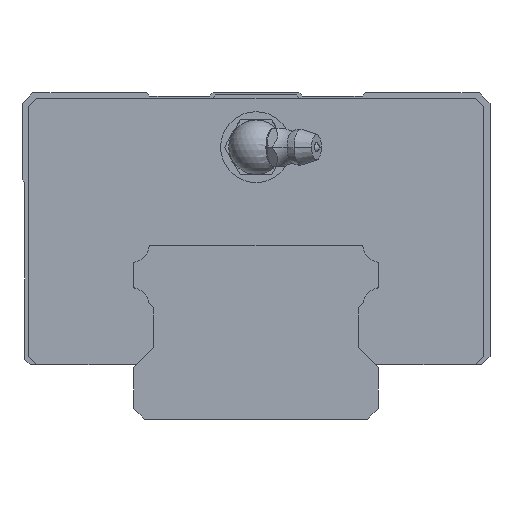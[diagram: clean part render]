
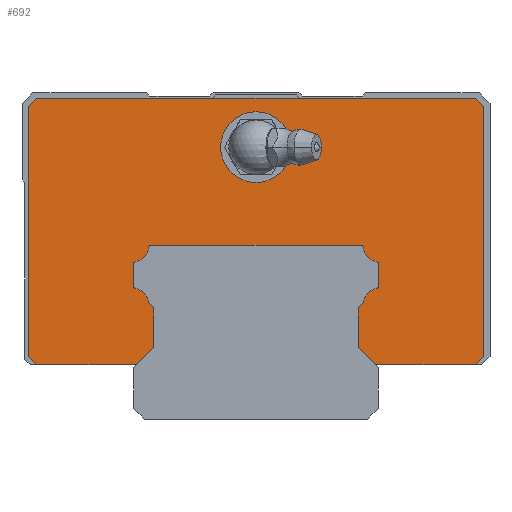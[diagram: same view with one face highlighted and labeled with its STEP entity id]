
A CAD part, front view. The second image highlights one B-rep face of the part: STEP entity #692.
In plain terms, the highlighted planar face has unit normal (0, -1, 0).
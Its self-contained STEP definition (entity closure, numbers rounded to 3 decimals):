
#432=FACE_BOUND('',#1112,.T.);
#433=FACE_BOUND('',#1113,.T.);
#562=CIRCLE('',#3401,6.5);
#563=CIRCLE('',#3402,3.2);
#564=CIRCLE('',#3403,0.5);
#565=CIRCLE('',#3404,0.5);
#566=CIRCLE('',#3405,3.2);
#567=CIRCLE('',#3406,0.5);
#568=CIRCLE('',#3407,0.5);
#569=CIRCLE('',#3408,3.2);
#570=CIRCLE('',#3409,0.5);
#571=CIRCLE('',#3410,0.5);
#572=CIRCLE('',#3411,3.2);
#692=ADVANCED_FACE('',(#432,#433),#878,.T.);
#878=PLANE('',#3412);
#1112=EDGE_LOOP('',(#1365));
#1113=EDGE_LOOP('',(#1366,#1367,#1368,#1369,#1370,#1371,#1372,#1373,#1374,
#1375,#1376,#1377,#1378,#1379,#1380,#1381,#1382,#1383,#1384,#1385,#1386,
#1387,#1388,#1389,#1390,#1391,#1392,#1393));
#1365=ORIENTED_EDGE('',*,*,#2480,.F.);
#1366=ORIENTED_EDGE('',*,*,#2481,.T.);
#1367=ORIENTED_EDGE('',*,*,#2482,.T.);
#1368=ORIENTED_EDGE('',*,*,#2483,.T.);
#1369=ORIENTED_EDGE('',*,*,#2484,.T.);
#1370=ORIENTED_EDGE('',*,*,#2485,.T.);
#1371=ORIENTED_EDGE('',*,*,#2486,.T.);
#1372=ORIENTED_EDGE('',*,*,#2487,.T.);
#1373=ORIENTED_EDGE('',*,*,#2488,.T.);
#1374=ORIENTED_EDGE('',*,*,#2489,.T.);
#1375=ORIENTED_EDGE('',*,*,#2490,.T.);
#1376=ORIENTED_EDGE('',*,*,#2491,.T.);
#1377=ORIENTED_EDGE('',*,*,#2492,.T.);
#1378=ORIENTED_EDGE('',*,*,#2493,.T.);
#1379=ORIENTED_EDGE('',*,*,#2494,.T.);
#1380=ORIENTED_EDGE('',*,*,#2495,.T.);
#1381=ORIENTED_EDGE('',*,*,#2496,.T.);
#1382=ORIENTED_EDGE('',*,*,#2497,.T.);
#1383=ORIENTED_EDGE('',*,*,#2498,.T.);
#1384=ORIENTED_EDGE('',*,*,#2499,.T.);
#1385=ORIENTED_EDGE('',*,*,#2500,.T.);
#1386=ORIENTED_EDGE('',*,*,#2501,.T.);
#1387=ORIENTED_EDGE('',*,*,#2502,.T.);
#1388=ORIENTED_EDGE('',*,*,#2503,.T.);
#1389=ORIENTED_EDGE('',*,*,#2504,.T.);
#1390=ORIENTED_EDGE('',*,*,#2505,.T.);
#1391=ORIENTED_EDGE('',*,*,#2506,.T.);
#1392=ORIENTED_EDGE('',*,*,#2507,.T.);
#1393=ORIENTED_EDGE('',*,*,#2508,.T.);
#2187=VERTEX_POINT('',#4614);
#2188=VERTEX_POINT('',#4616);
#2189=VERTEX_POINT('',#4617);
#2190=VERTEX_POINT('',#4619);
#2191=VERTEX_POINT('',#4621);
#2192=VERTEX_POINT('',#4623);
#2193=VERTEX_POINT('',#4625);
#2194=VERTEX_POINT('',#4627);
#2195=VERTEX_POINT('',#4629);
#2196=VERTEX_POINT('',#4631);
#2197=VERTEX_POINT('',#4633);
#2198=VERTEX_POINT('',#4635);
#2199=VERTEX_POINT('',#4637);
#2200=VERTEX_POINT('',#4639);
#2201=VERTEX_POINT('',#4641);
#2202=VERTEX_POINT('',#4643);
#2203=VERTEX_POINT('',#4645);
#2204=VERTEX_POINT('',#4647);
#2205=VERTEX_POINT('',#4649);
#2206=VERTEX_POINT('',#4651);
#2207=VERTEX_POINT('',#4653);
#2208=VERTEX_POINT('',#4655);
#2209=VERTEX_POINT('',#4657);
#2210=VERTEX_POINT('',#4659);
#2211=VERTEX_POINT('',#4661);
#2212=VERTEX_POINT('',#4663);
#2213=VERTEX_POINT('',#4665);
#2214=VERTEX_POINT('',#4667);
#2215=VERTEX_POINT('',#4669);
#2480=EDGE_CURVE('',#2187,#2187,#562,.T.);
#2481=EDGE_CURVE('',#2188,#2189,#2891,.T.);
#2482=EDGE_CURVE('',#2189,#2190,#2892,.T.);
#2483=EDGE_CURVE('',#2190,#2191,#2893,.T.);
#2484=EDGE_CURVE('',#2191,#2192,#2894,.T.);
#2485=EDGE_CURVE('',#2192,#2193,#2895,.T.);
#2486=EDGE_CURVE('',#2193,#2194,#2896,.T.);
#2487=EDGE_CURVE('',#2194,#2195,#2897,.T.);
#2488=EDGE_CURVE('',#2195,#2196,#2898,.T.);
#2489=EDGE_CURVE('',#2196,#2197,#2899,.T.);
#2490=EDGE_CURVE('',#2197,#2198,#2900,.T.);
#2491=EDGE_CURVE('',#2198,#2199,#2901,.T.);
#2492=EDGE_CURVE('',#2199,#2200,#2902,.T.);
#2493=EDGE_CURVE('',#2200,#2201,#2903,.T.);
#2494=EDGE_CURVE('',#2201,#2202,#2904,.T.);
#2495=EDGE_CURVE('',#2202,#2203,#563,.T.);
#2496=EDGE_CURVE('',#2203,#2204,#564,.T.);
#2497=EDGE_CURVE('',#2204,#2205,#2905,.T.);
#2498=EDGE_CURVE('',#2205,#2206,#565,.T.);
#2499=EDGE_CURVE('',#2206,#2207,#566,.T.);
#2500=EDGE_CURVE('',#2207,#2208,#567,.T.);
#2501=EDGE_CURVE('',#2208,#2209,#2906,.T.);
#2502=EDGE_CURVE('',#2209,#2210,#568,.T.);
#2503=EDGE_CURVE('',#2210,#2211,#569,.T.);
#2504=EDGE_CURVE('',#2211,#2212,#570,.T.);
#2505=EDGE_CURVE('',#2212,#2213,#2907,.T.);
#2506=EDGE_CURVE('',#2213,#2214,#571,.T.);
#2507=EDGE_CURVE('',#2214,#2215,#572,.T.);
#2508=EDGE_CURVE('',#2215,#2188,#2908,.T.);
#2891=LINE('',#4615,#3147);
#2892=LINE('',#4618,#3148);
#2893=LINE('',#4620,#3149);
#2894=LINE('',#4622,#3150);
#2895=LINE('',#4624,#3151);
#2896=LINE('',#4626,#3152);
#2897=LINE('',#4628,#3153);
#2898=LINE('',#4630,#3154);
#2899=LINE('',#4632,#3155);
#2900=LINE('',#4634,#3156);
#2901=LINE('',#4636,#3157);
#2902=LINE('',#4638,#3158);
#2903=LINE('',#4640,#3159);
#2904=LINE('',#4642,#3160);
#2905=LINE('',#4648,#3161);
#2906=LINE('',#4656,#3162);
#2907=LINE('',#4664,#3163);
#2908=LINE('',#4670,#3164);
#3147=VECTOR('',#3725,1.);
#3148=VECTOR('',#3726,1.);
#3149=VECTOR('',#3727,1.);
#3150=VECTOR('',#3728,1.);
#3151=VECTOR('',#3729,1.);
#3152=VECTOR('',#3730,1.);
#3153=VECTOR('',#3731,1.);
#3154=VECTOR('',#3732,1.);
#3155=VECTOR('',#3733,1.);
#3156=VECTOR('',#3734,1.);
#3157=VECTOR('',#3735,1.);
#3158=VECTOR('',#3736,1.);
#3159=VECTOR('',#3737,1.);
#3160=VECTOR('',#3738,1.);
#3161=VECTOR('',#3743,1.);
#3162=VECTOR('',#3750,1.);
#3163=VECTOR('',#3757,1.);
#3164=VECTOR('',#3762,1.);
#3401=AXIS2_PLACEMENT_3D('',#4613,#3723,#3724);
#3402=AXIS2_PLACEMENT_3D('',#4644,#3739,#3740);
#3403=AXIS2_PLACEMENT_3D('',#4646,#3741,#3742);
#3404=AXIS2_PLACEMENT_3D('',#4650,#3744,#3745);
#3405=AXIS2_PLACEMENT_3D('',#4652,#3746,#3747);
#3406=AXIS2_PLACEMENT_3D('',#4654,#3748,#3749);
#3407=AXIS2_PLACEMENT_3D('',#4658,#3751,#3752);
#3408=AXIS2_PLACEMENT_3D('',#4660,#3753,#3754);
#3409=AXIS2_PLACEMENT_3D('',#4662,#3755,#3756);
#3410=AXIS2_PLACEMENT_3D('',#4666,#3758,#3759);
#3411=AXIS2_PLACEMENT_3D('',#4668,#3760,#3761);
#3412=AXIS2_PLACEMENT_3D('',#4671,#3763,#3764);
#3723=DIRECTION('',(0.,-1.,0.));
#3724=DIRECTION('',(1.,0.,0.));
#3725=DIRECTION('',(0.,0.,-1.));
#3726=DIRECTION('',(0.707,0.,-0.707));
#3727=DIRECTION('',(1.,0.,0.));
#3728=DIRECTION('',(0.707,0.,0.707));
#3729=DIRECTION('',(0.,0.,1.));
#3730=DIRECTION('',(-0.707,0.,0.707));
#3731=DIRECTION('',(-1.,0.,0.));
#3732=DIRECTION('',(-0.707,0.,-0.707));
#3733=DIRECTION('',(0.,0.,-1.));
#3734=DIRECTION('',(0.707,0.,-0.707));
#3735=DIRECTION('',(1.,0.,0.));
#3736=DIRECTION('',(0.707,0.,0.707));
#3737=DIRECTION('',(0.,0.,1.));
#3738=DIRECTION('',(-0.707,0.,0.707));
#3739=DIRECTION('',(0.,-1.,0.));
#3740=DIRECTION('',(0.,0.,-1.));
#3741=DIRECTION('',(0.,1.,0.));
#3742=DIRECTION('',(0.,0.,-1.));
#3743=DIRECTION('',(0.,0.,1.));
#3744=DIRECTION('',(0.,1.,0.));
#3745=DIRECTION('',(0.,0.,-1.));
#3746=DIRECTION('',(0.,-1.,0.));
#3747=DIRECTION('',(0.,0.,-1.));
#3748=DIRECTION('',(0.,1.,0.));
#3749=DIRECTION('',(0.,0.,-1.));
#3750=DIRECTION('',(1.,0.,0.));
#3751=DIRECTION('',(0.,1.,0.));
#3752=DIRECTION('',(0.,0.,-1.));
#3753=DIRECTION('',(0.,-1.,0.));
#3754=DIRECTION('',(0.,0.,-1.));
#3755=DIRECTION('',(0.,1.,0.));
#3756=DIRECTION('',(0.,0.,-1.));
#3757=DIRECTION('',(0.,0.,-1.));
#3758=DIRECTION('',(0.,1.,0.));
#3759=DIRECTION('',(0.,0.,-1.));
#3760=DIRECTION('',(0.,-1.,0.));
#3761=DIRECTION('',(0.,0.,-1.));
#3762=DIRECTION('',(-0.707,0.,-0.707));
#3763=DIRECTION('',(0.,-1.,0.));
#3764=DIRECTION('',(0.,0.,-1.));
#4613=CARTESIAN_POINT('',(0.,-17.,50.));
#4614=CARTESIAN_POINT('',(6.5,-17.,50.));
#4615=CARTESIAN_POINT('',(18.75,-17.,99.3));
#4616=CARTESIAN_POINT('',(18.75,-17.,20.45));
#4617=CARTESIAN_POINT('',(18.75,-17.,13.25));
#4618=CARTESIAN_POINT('',(-33.65,-17.,65.65));
#4619=CARTESIAN_POINT('',(22.,-17.,10.));
#4620=CARTESIAN_POINT('',(-40.3,-17.,10.));
#4621=CARTESIAN_POINT('',(40.3,-17.,10.));
#4622=CARTESIAN_POINT('',(40.3,-17.,10.));
#4623=CARTESIAN_POINT('',(41.8,-17.,11.5));
#4624=CARTESIAN_POINT('',(41.8,-17.,11.5));
#4625=CARTESIAN_POINT('',(41.8,-17.,57.5));
#4626=CARTESIAN_POINT('',(41.8,-17.,57.5));
#4627=CARTESIAN_POINT('',(40.3,-17.,59.));
#4628=CARTESIAN_POINT('',(40.3,-17.,59.));
#4629=CARTESIAN_POINT('',(-40.3,-17.,59.));
#4630=CARTESIAN_POINT('',(-40.3,-17.,59.));
#4631=CARTESIAN_POINT('',(-41.8,-17.,57.5));
#4632=CARTESIAN_POINT('',(-41.8,-17.,57.5));
#4633=CARTESIAN_POINT('',(-41.8,-17.,11.5));
#4634=CARTESIAN_POINT('',(-41.8,-17.,11.5));
#4635=CARTESIAN_POINT('',(-40.3,-17.,10.));
#4636=CARTESIAN_POINT('',(-40.3,-17.,10.));
#4637=CARTESIAN_POINT('',(-22.,-17.,10.));
#4638=CARTESIAN_POINT('',(33.65,-17.,65.65));
#4639=CARTESIAN_POINT('',(-18.75,-17.,13.25));
#4640=CARTESIAN_POINT('',(-18.75,-17.,99.3));
#4641=CARTESIAN_POINT('',(-18.75,-17.,20.45));
#4642=CARTESIAN_POINT('',(-48.8,-17.,50.5));
#4643=CARTESIAN_POINT('',(-19.674,-17.,21.374));
#4644=CARTESIAN_POINT('',(-22.84,-17.,20.91));
#4645=CARTESIAN_POINT('',(-22.113,-17.,24.027));
#4646=CARTESIAN_POINT('',(-22.,-17.,24.514));
#4647=CARTESIAN_POINT('',(-22.5,-17.,24.514));
#4648=CARTESIAN_POINT('',(-22.5,-17.,99.3));
#4649=CARTESIAN_POINT('',(-22.5,-17.,28.486));
#4650=CARTESIAN_POINT('',(-22.,-17.,28.486));
#4651=CARTESIAN_POINT('',(-22.113,-17.,28.973));
#4652=CARTESIAN_POINT('',(-22.84,-17.,32.09));
#4653=CARTESIAN_POINT('',(-19.681,-17.,31.58));
#4654=CARTESIAN_POINT('',(-19.187,-17.,31.5));
#4655=CARTESIAN_POINT('',(-19.187,-17.,32.));
#4656=CARTESIAN_POINT('',(0.,-17.,32.));
#4657=CARTESIAN_POINT('',(19.187,-17.,32.));
#4658=CARTESIAN_POINT('',(19.187,-17.,31.5));
#4659=CARTESIAN_POINT('',(19.681,-17.,31.58));
#4660=CARTESIAN_POINT('',(22.84,-17.,32.09));
#4661=CARTESIAN_POINT('',(22.113,-17.,28.973));
#4662=CARTESIAN_POINT('',(22.,-17.,28.486));
#4663=CARTESIAN_POINT('',(22.5,-17.,28.486));
#4664=CARTESIAN_POINT('',(22.5,-17.,99.3));
#4665=CARTESIAN_POINT('',(22.5,-17.,24.514));
#4666=CARTESIAN_POINT('',(22.,-17.,24.514));
#4667=CARTESIAN_POINT('',(22.113,-17.,24.027));
#4668=CARTESIAN_POINT('',(22.84,-17.,20.91));
#4669=CARTESIAN_POINT('',(19.674,-17.,21.374));
#4670=CARTESIAN_POINT('',(48.8,-17.,50.5));
#4671=CARTESIAN_POINT('',(0.,-17.,99.3));
